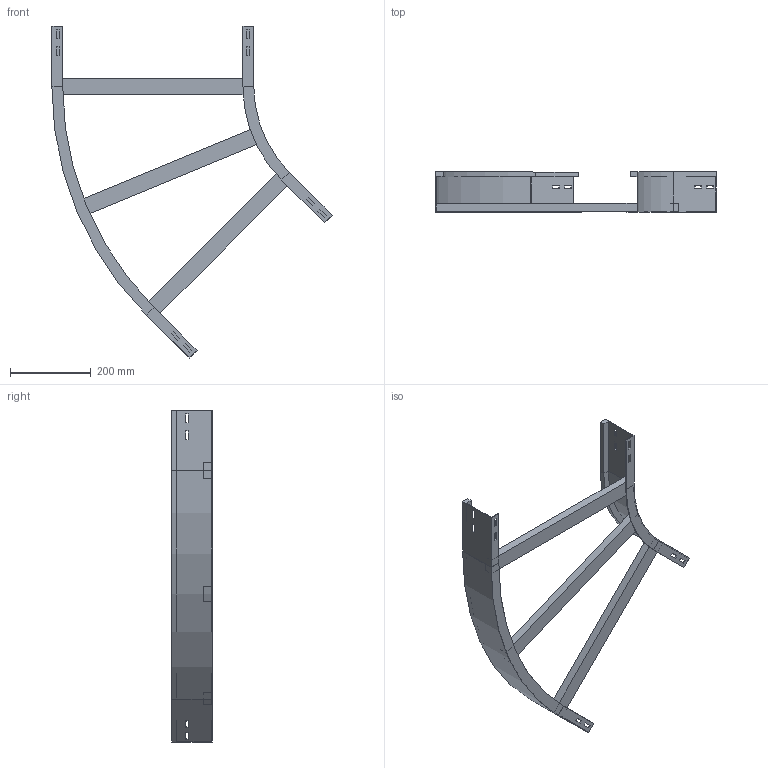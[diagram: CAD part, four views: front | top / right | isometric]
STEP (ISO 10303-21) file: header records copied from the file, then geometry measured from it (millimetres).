
FILE_DESCRIPTION (( 'STEP AP214' ), '1' );
FILE_NAME ('A2_11B3D500.step', '2025-02-21T15:12:27', ( '' ), ( '' ), 'SwSTEP 2.0', 'SolidWorks 2023', '' );
FILE_SCHEMA (( 'AUTOMOTIVE_DESIGN' ));
Length unit declared in the file: millimetre
Products named in the file (4): A2_11B3D500; A2_LONGH.INTERNO 45°_H100_R300; TRAVERSINO_500; A2_LONGH.ESTERNO 45°_H100_R300+500
Assembly tree (5 placements, depth 2):
  A2_11B3D500
    A2_LONGH.INTERNO 45°_H100_R300
    A2_LONGH.ESTERNO 45°_H100_R300+500
    TRAVERSINO_500  x3
Bounding box: 693.93 x 100 x 821.75 mm (x, y, z)
Volume: 1847412.6 mm3; surface area: 602290.3 mm2
Topology: 5 solids, 5 shells, 134 faces, 340 edges, 216 vertices
Faces by surface type: plane 126, cylinder 8
Entity records: 3821 total; most frequent: CARTESIAN_POINT 646, ORIENTED_EDGE 632, DIRECTION 592, EDGE_CURVE 316, VECTOR 300, LINE 300, VERTEX_POINT 200, EDGE_LOOP 154
